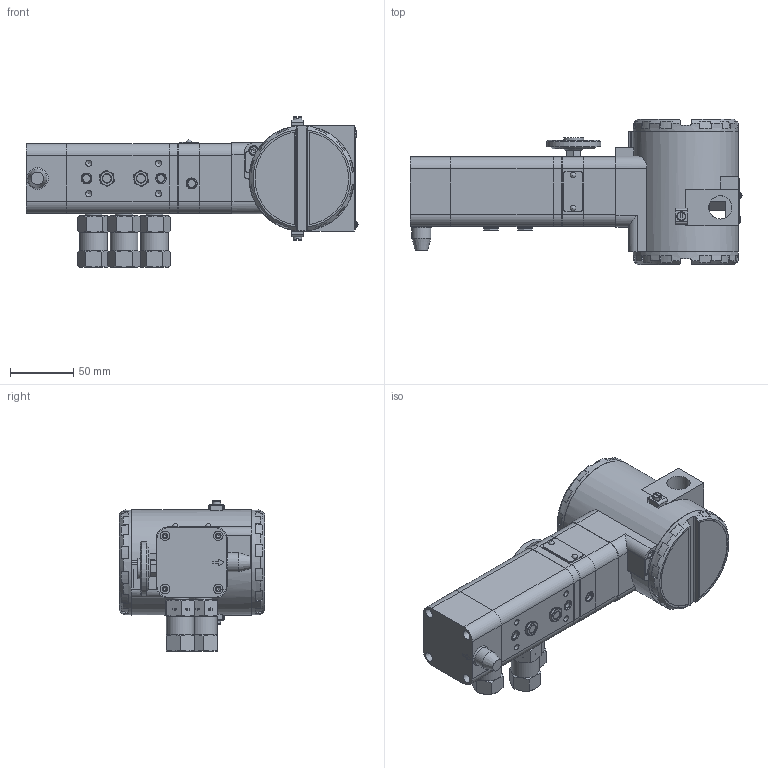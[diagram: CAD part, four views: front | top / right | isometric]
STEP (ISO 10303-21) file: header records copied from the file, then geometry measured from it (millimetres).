
FILE_DESCRIPTION(/* description */ (''),/* implementation_level */ '2;1');
FILE_NAME(/* name */ 'F:\Area\Desenvolvimento_2\Projects\Sensor\projetos\Natasha\Desenho FY\Steps\FY30X_1MAN_IN.stp',/* time_stamp */ '2023-03-02T09:51:56-03:00',/* author */ ('inventor02'),/* organization */ (''),/* preprocessor_version */ 'ST-DEVELOPER v17',/* originating_system */ 'Autodesk Inventor 2019',/* authorisation */ '');
FILE_SCHEMA (('CONFIG_CONTROL_DESIGN'));
Products named in the file (55): Subconjunto FY completo; Subconjunto transdutor; Subconjunto bloco; Bloco usinado; Subconjunto filtro ar 1-4 npt; Conexao traseira 1-4 npt; Elemento filtrante; Conexao frontal 1-4 npt; O-ring da conexao 1-4 npt; Subconjunto vant plug; Vent plug; Filtro vant plug; Subconjunto sealing plugs.0007; Sealing plugs; Sealing plugs sphere; DIN 913 - M10 x 10; Subconjunto do diafragma; Junta superiror diafragma; arruela superior diafragma; Distanciador uniao diafragma; Junta inferior diafragma; Eixo do diafragma; Intermediaria; Subconjunto base; Base usinada; Restricao; Subconjunto sinterizado; Bucha do sinterizado; Sinterizado retificado; Plaqueta sem texto; Rebite U; MANÔMETRO; Subconjunto tampa ligacao; Tampa de ligacao usinada; Subconjunto da Tampa do Hall; Tampa do Hall; Subconjunto transmissor; Subconjunto carcaca transmissor; Carcaca usinada; Chapa aterramento externo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
Assembly tree (68 placements, depth 5):
  Subconjunto FY completo
    Subconjunto transdutor
      Subconjunto bloco
        Bloco usinado
        Subconjunto sinterizado  x2
          Bucha do sinterizado
          Sinterizado retificado
        Subconjunto filtro ar 1-4 npt  x3
          Conexao traseira 1-4 npt
          Elemento filtrante
          Conexao frontal 1-4 npt
          O-ring da conexao 1-4 npt
        Subconjunto vant plug  x2
          Vent plug
          Filtro vant plug
        Subconjunto sealing plugs.0007  x2
          Sealing plugs
          Sealing plugs sphere
        DIN 913 - M10 x 10  x2
      Subconjunto do diafragma
        Junta superiror diafragma
        arruela superior diafragma
        Distanciador uniao diafragma
        Junta inferior diafragma
        Eixo do diafragma
        Intermediaria
      Subconjunto base
        Base usinada
        Restricao
        Subconjunto sinterizado  x2
          Bucha do sinterizado
          Sinterizado retificado
        Plaqueta sem texto
        Rebite U  x2
        MANÔMETRO
      Subconjunto tampa ligacao
        Tampa de ligacao usinada
      Subconjunto da Tampa do Hall
        Tampa do Hall
    Subconjunto transmissor
      Subconjunto carcaca transmissor
        Carcaca usinada
        Chapa aterramento externo  x2
        ISO 1207 - M4 x 8  x2
        Tampao Z-S  x2
      Subconjunto tampa com visor
        Tampa macho com visor
        VIDRO DO VISOR
        Trava do vidro da tampa com visor
      Subconjunto tampa sem visor
        Tampa macho sem visor_2
      Subconjunto display
      DIN 912 - M4 x 8  x2
      DIN 912 - M4 x 6
      DIN 84 - M3 x 4
      Rebite da Plaqueta
      Subconjunto plaqueta
        Plaqueta transmissor
        Rebite da Plaqueta
Bounding box: 261.91 x 114.5 x 118.65 mm (x, y, z)
Volume: 787292.5 mm3; surface area: 299145.5 mm2
Topology: 63 solids, 63 shells, 1986 faces, 5378 edges, 3694 vertices
Faces by surface type: plane 889, cylinder 507, bspline 244, cone 231, torus 97, sphere 18
Full cylindrical faces by diameter (mm): 1.3 x1, 2 x2, 2.1 x5, 2.11 x2, 2.459 x5, 2.5 x4, 2.54 x4, 2.7 x4, 2.729 x1, 2.8 x2, 3 x3, 3.1 x1, 3.2 x24, 3.242 x16, 3.5 x3, 3.57 x2, 3.6 x1, 3.65 x1, 3.8 x1, 4 x16, 4.2 x1, 4.3 x18, 4.4 x2, 4.5 x9, 4.917 x4, 5.2 x2, 5.3 x4, 5.5 x4, 5.9 x3, 6.3 x4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
Entity records: 59067 total; most frequent: CARTESIAN_POINT 14689, ORIENTED_EDGE 8898, DIRECTION 8650, EDGE_CURVE 4449, AXIS2_PLACEMENT_3D 3328, VERTEX_POINT 3093, EDGE_LOOP 2040, LINE 1994
